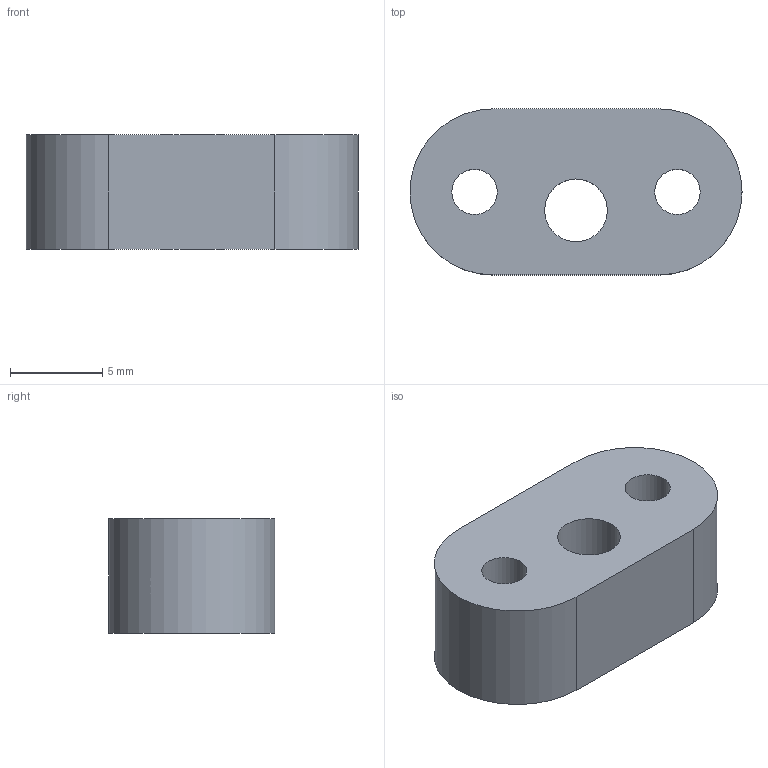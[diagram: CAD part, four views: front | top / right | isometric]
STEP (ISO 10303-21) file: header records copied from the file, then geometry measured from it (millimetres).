
FILE_DESCRIPTION(/* description */ ('Insert Lateral Flex Jig Basebody'),/* implementation_level */ '2;1');
FILE_NAME(/* name */ 'Z:\Werkstatt Server\Projekte\Atlas\Entwicklung u. Konstruktion\Konstruktion\CAD Daten\ITkPixToolV2.0\CAD_Drawings\Individual Parts\Flex Jig\ITPTv2.02.00.10.stp',/* time_stamp */ '2022-08-09T16:12:41+02:00',/* author */ ('Tim Kanngießer'),/* organization */ (''),/* preprocessor_version */ 'ST-DEVELOPER v19',/* originating_system */ 'Autodesk Inventor 2023',/* authorisation */ '');
FILE_SCHEMA (('AUTOMOTIVE_DESIGN { 1 0 10303 214 3 1 1 }'));
Length unit declared in the file: millimetre
Products named in the file (1): ITPTv2.02.00.10
Bounding box: 18 x 9 x 6.2 mm (x, y, z)
Volume: 781.4 mm3; surface area: 701 mm2
Topology: 1 solids, 1 shells, 9 faces, 21 edges, 14 vertices
Faces by surface type: cylinder 5, plane 4
Full cylindrical faces by diameter (mm): 2.459 x2, 3.4 x1
Entity records: 320 total; most frequent: DIRECTION 51, CARTESIAN_POINT 45, ORIENTED_EDGE 42, EDGE_CURVE 21, AXIS2_PLACEMENT_3D 20, EDGE_LOOP 15, VERTEX_POINT 14, LINE 11
